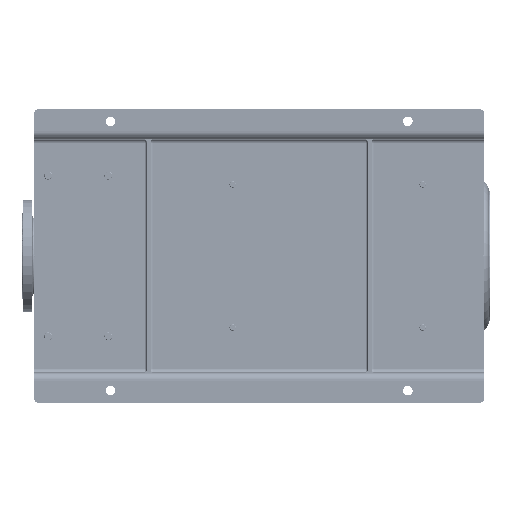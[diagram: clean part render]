
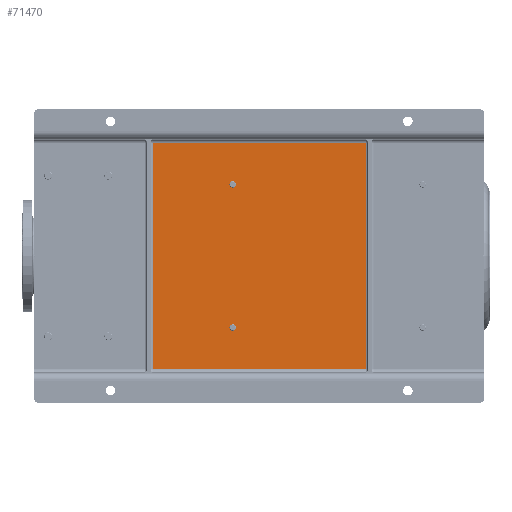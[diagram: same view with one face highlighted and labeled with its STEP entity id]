
A CAD part, front view. The second image highlights one B-rep face of the part: STEP entity #71470.
In plain terms, the highlighted planar face has unit normal (0, -1, 0).
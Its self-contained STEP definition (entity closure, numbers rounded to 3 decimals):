
#2998 = CARTESIAN_POINT ( 'NONE',  ( 543.01, 90., -494. ) ) ;
#4422 = CIRCLE ( 'NONE', #18683, 8. ) ;
#8959 = DIRECTION ( 'NONE',  ( 0., 1., 0. ) ) ;
#9484 = AXIS2_PLACEMENT_3D ( 'NONE', #48568, #8959, #158288 ) ;
#10314 = LINE ( 'NONE', #66049, #52226 ) ;
#12268 = EDGE_CURVE ( 'NONE', #123417, #154167, #4422, .T. ) ;
#12278 = CARTESIAN_POINT ( 'NONE',  ( 543.01, 90., -494. ) ) ;
#13440 = VERTEX_POINT ( 'NONE', #109570 ) ;
#14959 = DIRECTION ( 'NONE',  ( 0., 1., 0. ) ) ;
#15242 = DIRECTION ( 'NONE',  ( 1., 0., 0. ) ) ;
#15666 = CARTESIAN_POINT ( 'NONE',  ( 645., 90., -295. ) ) ;
#17763 = VERTEX_POINT ( 'NONE', #64170 ) ;
#18367 = EDGE_CURVE ( 'NONE', #98634, #48389, #61096, .T. ) ;
#18683 = AXIS2_PLACEMENT_3D ( 'NONE', #111774, #154926, #57797 ) ;
#29988 = DIRECTION ( 'NONE',  ( 0., 0., 1. ) ) ;
#38424 = ORIENTED_EDGE ( 'NONE', *, *, #136319, .T. ) ;
#40931 = EDGE_CURVE ( 'NONE', #41011, #13440, #63301, .T. ) ;
#41011 = VERTEX_POINT ( 'NONE', #83078 ) ;
#41743 = EDGE_LOOP ( 'NONE', ( #141178, #91103 ) ) ;
#47644 = EDGE_CURVE ( 'NONE', #17763, #80296, #149909, .T. ) ;
#48055 = AXIS2_PLACEMENT_3D ( 'NONE', #90549, #63553, #158055 ) ;
#48389 = VERTEX_POINT ( 'NONE', #15666 ) ;
#48568 = CARTESIAN_POINT ( 'NONE',  ( 186.99, 90., -494. ) ) ;
#52226 = VECTOR ( 'NONE', #65157, 1000. ) ;
#57797 = DIRECTION ( 'NONE',  ( 0., 0., -1. ) ) ;
#61096 = LINE ( 'NONE', #74609, #85570 ) ;
#61755 = ORIENTED_EDGE ( 'NONE', *, *, #18367, .T. ) ;
#63301 = CIRCLE ( 'NONE', #89265, 8. ) ;
#63468 = VECTOR ( 'NONE', #15242, 1000. ) ;
#63553 = DIRECTION ( 'NONE',  ( 0., -1., 0. ) ) ;
#64170 = CARTESIAN_POINT ( 'NONE',  ( 85., 90., -295. ) ) ;
#65157 = DIRECTION ( 'NONE',  ( -1., 0., 0. ) ) ;
#66049 = CARTESIAN_POINT ( 'NONE',  ( 75., 90., -295. ) ) ;
#71470 = ADVANCED_FACE ( 'NONE', ( #91442, #104027, #103152 ), #158911, .T. ) ;
#73784 = VECTOR ( 'NONE', #105870, 1000. ) ;
#74609 = CARTESIAN_POINT ( 'NONE',  ( 645., 90., -290. ) ) ;
#76063 = EDGE_LOOP ( 'NONE', ( #38424, #176984 ) ) ;
#80296 = VERTEX_POINT ( 'NONE', #81930 ) ;
#81103 = EDGE_CURVE ( 'NONE', #13440, #41011, #128988, .T. ) ;
#81930 = CARTESIAN_POINT ( 'NONE',  ( 85., 90., -825. ) ) ;
#82522 = CARTESIAN_POINT ( 'NONE',  ( 186.99, 90., -486. ) ) ;
#83078 = CARTESIAN_POINT ( 'NONE',  ( 543.01, 90., -502. ) ) ;
#85570 = VECTOR ( 'NONE', #127670, 1000. ) ;
#89265 = AXIS2_PLACEMENT_3D ( 'NONE', #2998, #98308, #29988 ) ;
#90549 = CARTESIAN_POINT ( 'NONE',  ( 75., 90., -1120. ) ) ;
#91103 = ORIENTED_EDGE ( 'NONE', *, *, #40931, .T. ) ;
#91442 = FACE_BOUND ( 'NONE', #76063, .T. ) ;
#93068 = EDGE_CURVE ( 'NONE', #80296, #98634, #97068, .T. ) ;
#94156 = CARTESIAN_POINT ( 'NONE',  ( 85., 90., -830. ) ) ;
#95570 = ORIENTED_EDGE ( 'NONE', *, *, #47644, .T. ) ;
#95880 = DIRECTION ( 'NONE',  ( 0., 0., 1. ) ) ;
#97068 = LINE ( 'NONE', #136650, #63468 ) ;
#98308 = DIRECTION ( 'NONE',  ( 0., 1., 0. ) ) ;
#98634 = VERTEX_POINT ( 'NONE', #173959 ) ;
#100622 = CARTESIAN_POINT ( 'NONE',  ( 186.99, 90., -502. ) ) ;
#103152 = FACE_OUTER_BOUND ( 'NONE', #133092, .T. ) ;
#104027 = FACE_BOUND ( 'NONE', #41743, .T. ) ;
#105870 = DIRECTION ( 'NONE',  ( 0., 0., -1. ) ) ;
#108546 = ORIENTED_EDGE ( 'NONE', *, *, #93068, .T. ) ;
#109570 = CARTESIAN_POINT ( 'NONE',  ( 543.01, 90., -486. ) ) ;
#111774 = CARTESIAN_POINT ( 'NONE',  ( 186.99, 90., -494. ) ) ;
#120392 = AXIS2_PLACEMENT_3D ( 'NONE', #12278, #14959, #95880 ) ;
#123417 = VERTEX_POINT ( 'NONE', #100622 ) ;
#127670 = DIRECTION ( 'NONE',  ( 0., 0., 1. ) ) ;
#128988 = CIRCLE ( 'NONE', #120392, 8. ) ;
#133092 = EDGE_LOOP ( 'NONE', ( #95570, #108546, #61755, #138665 ) ) ;
#136319 = EDGE_CURVE ( 'NONE', #154167, #123417, #176115, .T. ) ;
#136650 = CARTESIAN_POINT ( 'NONE',  ( 75., 90., -825. ) ) ;
#138665 = ORIENTED_EDGE ( 'NONE', *, *, #165180, .T. ) ;
#141178 = ORIENTED_EDGE ( 'NONE', *, *, #81103, .T. ) ;
#149909 = LINE ( 'NONE', #94156, #73784 ) ;
#154167 = VERTEX_POINT ( 'NONE', #82522 ) ;
#154926 = DIRECTION ( 'NONE',  ( 0., 1., 0. ) ) ;
#158055 = DIRECTION ( 'NONE',  ( 0., 0., -1. ) ) ;
#158288 = DIRECTION ( 'NONE',  ( 0., 0., -1. ) ) ;
#158911 = PLANE ( 'NONE',  #48055 ) ;
#165180 = EDGE_CURVE ( 'NONE', #48389, #17763, #10314, .T. ) ;
#173959 = CARTESIAN_POINT ( 'NONE',  ( 645., 90., -825. ) ) ;
#176115 = CIRCLE ( 'NONE', #9484, 8. ) ;
#176984 = ORIENTED_EDGE ( 'NONE', *, *, #12268, .T. ) ;
